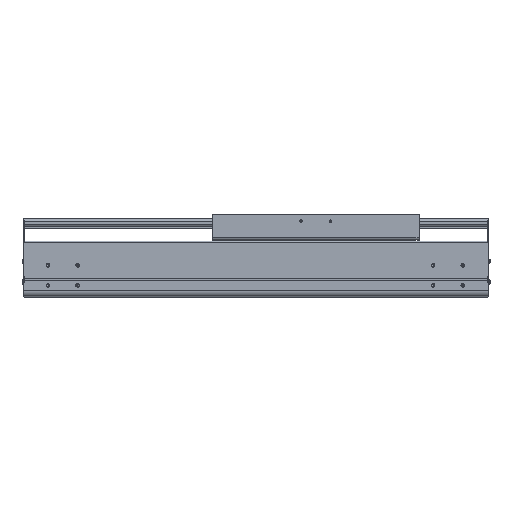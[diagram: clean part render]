
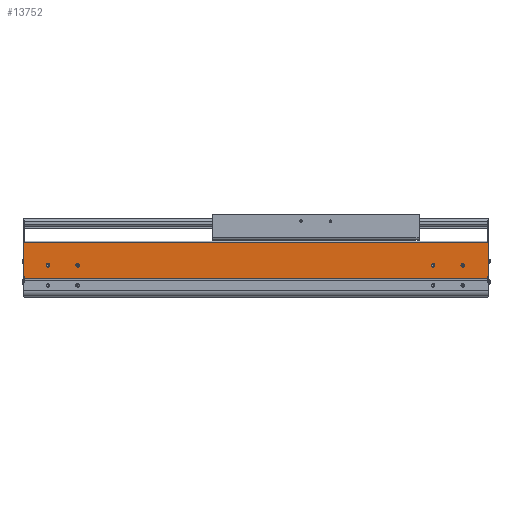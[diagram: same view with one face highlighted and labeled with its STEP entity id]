
A CAD part, top view. The second image highlights one B-rep face of the part: STEP entity #13752.
In plain terms, the highlighted planar face has unit normal (0, 0, 1).
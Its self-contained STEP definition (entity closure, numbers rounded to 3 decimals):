
#661=DIRECTION('',(1.,0.,0.));
#662=VECTOR('',#661,2.);
#663=CARTESIAN_POINT('',(-786.,34.65,107.));
#664=LINE('',#663,#662);
#665=CARTESIAN_POINT('',(-42.,54.,107.));
#666=DIRECTION('',(0.,0.,-1.));
#667=DIRECTION('',(1.,0.,0.));
#668=AXIS2_PLACEMENT_3D('',#665,#666,#667);
#670=CARTESIAN_POINT('',(-42.,54.,107.));
#671=DIRECTION('',(0.,0.,-1.));
#672=DIRECTION('',(-1.,0.,0.));
#673=AXIS2_PLACEMENT_3D('',#670,#671,#672);
#675=CARTESIAN_POINT('',(-92.,54.,107.));
#676=DIRECTION('',(0.,0.,-1.));
#677=DIRECTION('',(1.,0.,0.));
#678=AXIS2_PLACEMENT_3D('',#675,#676,#677);
#680=CARTESIAN_POINT('',(-92.,54.,107.));
#681=DIRECTION('',(0.,0.,-1.));
#682=DIRECTION('',(-1.,0.,0.));
#683=AXIS2_PLACEMENT_3D('',#680,#681,#682);
#685=CARTESIAN_POINT('',(-744.,54.,107.));
#686=DIRECTION('',(0.,0.,-1.));
#687=DIRECTION('',(1.,0.,0.));
#688=AXIS2_PLACEMENT_3D('',#685,#686,#687);
#690=CARTESIAN_POINT('',(-744.,54.,107.));
#691=DIRECTION('',(0.,0.,-1.));
#692=DIRECTION('',(-1.,0.,0.));
#693=AXIS2_PLACEMENT_3D('',#690,#691,#692);
#695=CARTESIAN_POINT('',(-694.,54.,107.));
#696=DIRECTION('',(0.,0.,-1.));
#697=DIRECTION('',(1.,0.,0.));
#698=AXIS2_PLACEMENT_3D('',#695,#696,#697);
#700=CARTESIAN_POINT('',(-694.,54.,107.));
#701=DIRECTION('',(0.,0.,-1.));
#702=DIRECTION('',(-1.,0.,0.));
#703=AXIS2_PLACEMENT_3D('',#700,#701,#702);
#705=DIRECTION('',(0.,-1.,0.));
#706=VECTOR('',#705,2.55);
#707=CARTESIAN_POINT('',(-784.,34.65,107.));
#708=LINE('',#707,#706);
#709=DIRECTION('',(0.,-1.,0.));
#710=VECTOR('',#709,58.85);
#711=CARTESIAN_POINT('',(-786.,93.5,107.));
#712=LINE('',#711,#710);
#713=DIRECTION('',(0.,1.,0.));
#714=VECTOR('',#713,58.85);
#715=CARTESIAN_POINT('',(2.,34.65,107.));
#716=LINE('',#715,#714);
#717=DIRECTION('',(0.,1.,0.));
#718=VECTOR('',#717,2.55);
#719=CARTESIAN_POINT('',(0.,32.1,107.));
#720=LINE('',#719,#718);
#825=DIRECTION('',(-1.,0.,0.));
#826=VECTOR('',#825,788.);
#827=CARTESIAN_POINT('',(2.,93.5,107.));
#828=LINE('',#827,#826);
#2015=DIRECTION('',(1.,0.,0.));
#2016=VECTOR('',#2015,2.);
#2017=CARTESIAN_POINT('',(0.,34.65,107.));
#2018=LINE('',#2017,#2016);
#9351=DIRECTION('',(1.,0.,0.));
#9352=VECTOR('',#9351,784.);
#9353=CARTESIAN_POINT('',(-784.,32.1,107.));
#9354=LINE('',#9353,#9352);
#10077=CARTESIAN_POINT('',(-786.,34.65,107.));
#10078=VERTEX_POINT('',#10077);
#10079=CARTESIAN_POINT('',(-786.,93.5,107.));
#10080=VERTEX_POINT('',#10079);
#10309=CARTESIAN_POINT('',(-784.,32.1,107.));
#10310=VERTEX_POINT('',#10309);
#10405=CARTESIAN_POINT('',(0.,32.1,107.));
#10406=VERTEX_POINT('',#10405);
#10701=CARTESIAN_POINT('',(-39.5,54.,107.));
#10702=CARTESIAN_POINT('',(-44.5,54.,107.));
#10703=VERTEX_POINT('',#10701);
#10704=VERTEX_POINT('',#10702);
#10705=CARTESIAN_POINT('',(-89.5,54.,107.));
#10706=CARTESIAN_POINT('',(-94.5,54.,107.));
#10707=VERTEX_POINT('',#10705);
#10708=VERTEX_POINT('',#10706);
#10709=CARTESIAN_POINT('',(-741.5,54.,107.));
#10710=CARTESIAN_POINT('',(-746.5,54.,107.));
#10711=VERTEX_POINT('',#10709);
#10712=VERTEX_POINT('',#10710);
#10713=CARTESIAN_POINT('',(-691.5,54.,107.));
#10714=CARTESIAN_POINT('',(-696.5,54.,107.));
#10715=VERTEX_POINT('',#10713);
#10716=VERTEX_POINT('',#10714);
#11666=CARTESIAN_POINT('',(2.,34.65,107.));
#11667=VERTEX_POINT('',#11666);
#11668=CARTESIAN_POINT('',(2.,93.5,107.));
#11669=VERTEX_POINT('',#11668);
#11890=CARTESIAN_POINT('',(0.,34.65,107.));
#11891=VERTEX_POINT('',#11890);
#12202=CARTESIAN_POINT('',(-784.,34.65,107.));
#12203=VERTEX_POINT('',#12202);
#13708=CARTESIAN_POINT('',(-392.,62.8,107.));
#13709=DIRECTION('',(0.,0.,1.));
#13710=DIRECTION('',(0.,-1.,0.));
#13711=AXIS2_PLACEMENT_3D('',#13708,#13709,#13710);
#13712=PLANE('',#13711);
#13713=ORIENTED_EDGE('',*,*,#13079,.F.);
#13714=ORIENTED_EDGE('',*,*,#13703,.F.);
#13715=ORIENTED_EDGE('',*,*,#12954,.F.);
#13717=ORIENTED_EDGE('',*,*,#13716,.F.);
#13719=ORIENTED_EDGE('',*,*,#13718,.F.);
#13721=ORIENTED_EDGE('',*,*,#13720,.F.);
#13723=ORIENTED_EDGE('',*,*,#13722,.F.);
#13725=ORIENTED_EDGE('',*,*,#13724,.F.);
#13726=EDGE_LOOP('',(#13713,#13714,#13715,#13717,#13719,#13721,#13723,#13725));
#13727=FACE_OUTER_BOUND('',#13726,.F.);
#13729=ORIENTED_EDGE('',*,*,#13728,.F.);
#13731=ORIENTED_EDGE('',*,*,#13730,.F.);
#13732=EDGE_LOOP('',(#13729,#13731));
#13733=FACE_BOUND('',#13732,.F.);
#13735=ORIENTED_EDGE('',*,*,#13734,.F.);
#13737=ORIENTED_EDGE('',*,*,#13736,.F.);
#13738=EDGE_LOOP('',(#13735,#13737));
#13739=FACE_BOUND('',#13738,.F.);
#13741=ORIENTED_EDGE('',*,*,#13740,.F.);
#13743=ORIENTED_EDGE('',*,*,#13742,.F.);
#13744=EDGE_LOOP('',(#13741,#13743));
#13745=FACE_BOUND('',#13744,.F.);
#13747=ORIENTED_EDGE('',*,*,#13746,.F.);
#13749=ORIENTED_EDGE('',*,*,#13748,.F.);
#13750=EDGE_LOOP('',(#13747,#13749));
#13751=FACE_BOUND('',#13750,.F.);
#13752=ADVANCED_FACE('',(#13727,#13733,#13739,#13745,#13751),#13712,.T.);
#669=CIRCLE('',#668,2.5);
#674=CIRCLE('',#673,2.5);
#679=CIRCLE('',#678,2.5);
#684=CIRCLE('',#683,2.5);
#689=CIRCLE('',#688,2.5);
#694=CIRCLE('',#693,2.5);
#699=CIRCLE('',#698,2.5);
#704=CIRCLE('',#703,2.5);
#12954=EDGE_CURVE('',#10080,#10078,#712,.T.);
#13079=EDGE_CURVE('',#12203,#10310,#708,.T.);
#13703=EDGE_CURVE('',#10078,#12203,#664,.T.);
#13716=EDGE_CURVE('',#11669,#10080,#828,.T.);
#13718=EDGE_CURVE('',#11667,#11669,#716,.T.);
#13720=EDGE_CURVE('',#11891,#11667,#2018,.T.);
#13722=EDGE_CURVE('',#10406,#11891,#720,.T.);
#13724=EDGE_CURVE('',#10310,#10406,#9354,.T.);
#13728=EDGE_CURVE('',#10707,#10708,#679,.T.);
#13730=EDGE_CURVE('',#10708,#10707,#684,.T.);
#13734=EDGE_CURVE('',#10711,#10712,#689,.T.);
#13736=EDGE_CURVE('',#10712,#10711,#694,.T.);
#13740=EDGE_CURVE('',#10715,#10716,#699,.T.);
#13742=EDGE_CURVE('',#10716,#10715,#704,.T.);
#13746=EDGE_CURVE('',#10703,#10704,#669,.T.);
#13748=EDGE_CURVE('',#10704,#10703,#674,.T.);
